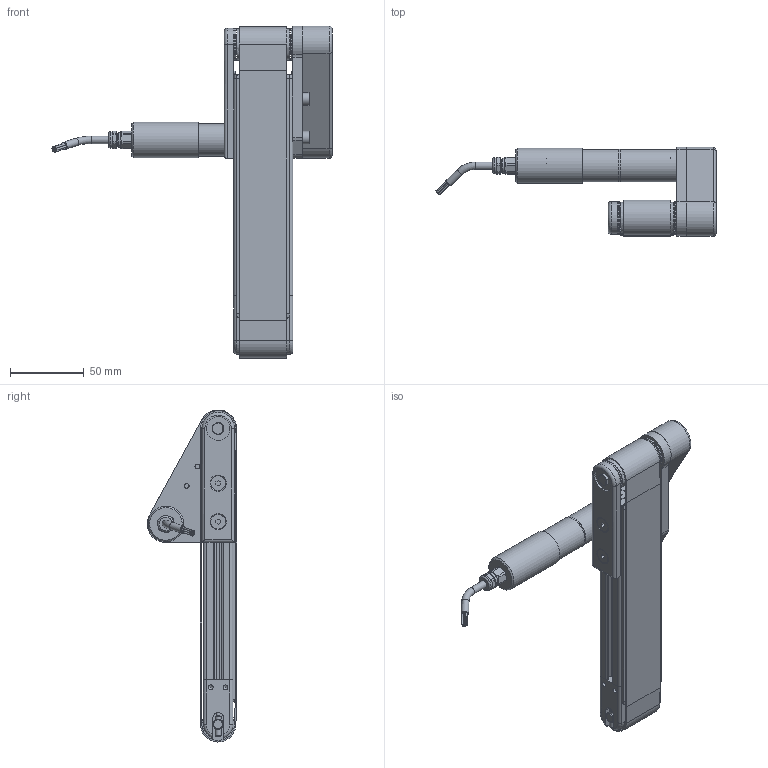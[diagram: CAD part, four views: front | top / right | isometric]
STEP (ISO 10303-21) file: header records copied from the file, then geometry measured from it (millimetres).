
FILE_DESCRIPTION(/* description */ (''),/* implementation_level */ '2;1');
FILE_NAME(/* name */ 'G:\DATEN\CAD\Förderband\Marketing\3D-Modelle (Standard)\BK-20-40\BK-20-40-1-K.stp',/* time_stamp */ '2019-05-13T08:03:12+02:00',/* author */ ('melanie.ochs'),/* organization */ (''),/* preprocessor_version */ 'ST-DEVELOPER v17',/* originating_system */ 'Autodesk Inventor 2019',/* authorisation */ '');
FILE_SCHEMA (('CONFIG_CONTROL_DESIGN'));
Length unit declared in the file: millimetre
Products named in the file (1): BK-20-40-1-K
Bounding box: 189.38 x 60.37 x 224.52 mm (x, y, z)
Volume: 242831.6 mm3; surface area: 156472.2 mm2
Topology: 37 solids, 38 shells, 888 faces, 2337 edges, 1583 vertices
Faces by surface type: plane 419, cylinder 294, cone 83, bspline 62, torus 30
Full cylindrical faces by diameter (mm): 1 x6, 1.567 x3, 1.6 x6, 2 x2, 2.5 x2, 3 x1, 3.1 x2, 3.242 x6, 4 x4, 4.134 x1, 4.3 x2, 4.4 x2, 4.917 x1, 5 x16, 5.2 x2, 5.4 x2, 5.5 x2, 6 x3, 6.647 x1, 6.773 x1, 7 x6, 8 x2, 8.5 x4, 8.773 x1, 9 x2, 10 x7, 11 x1, 15 x2, 16 x1, 19 x4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
Entity records: 29594 total; most frequent: CARTESIAN_POINT 6432, ORIENTED_EDGE 4636, DIRECTION 4602, EDGE_CURVE 2318, AXIS2_PLACEMENT_3D 1702, VERTEX_POINT 1583, LINE 1198, VECTOR 1198
